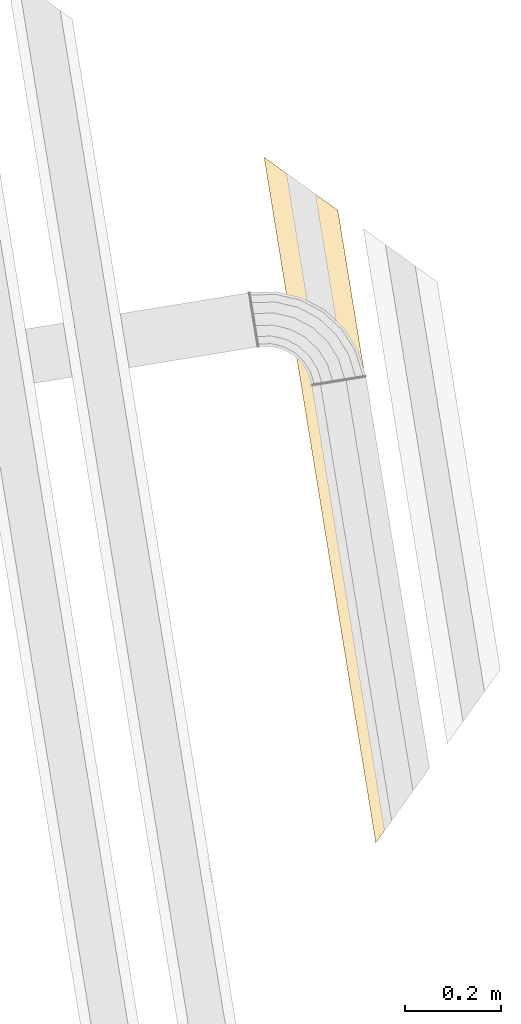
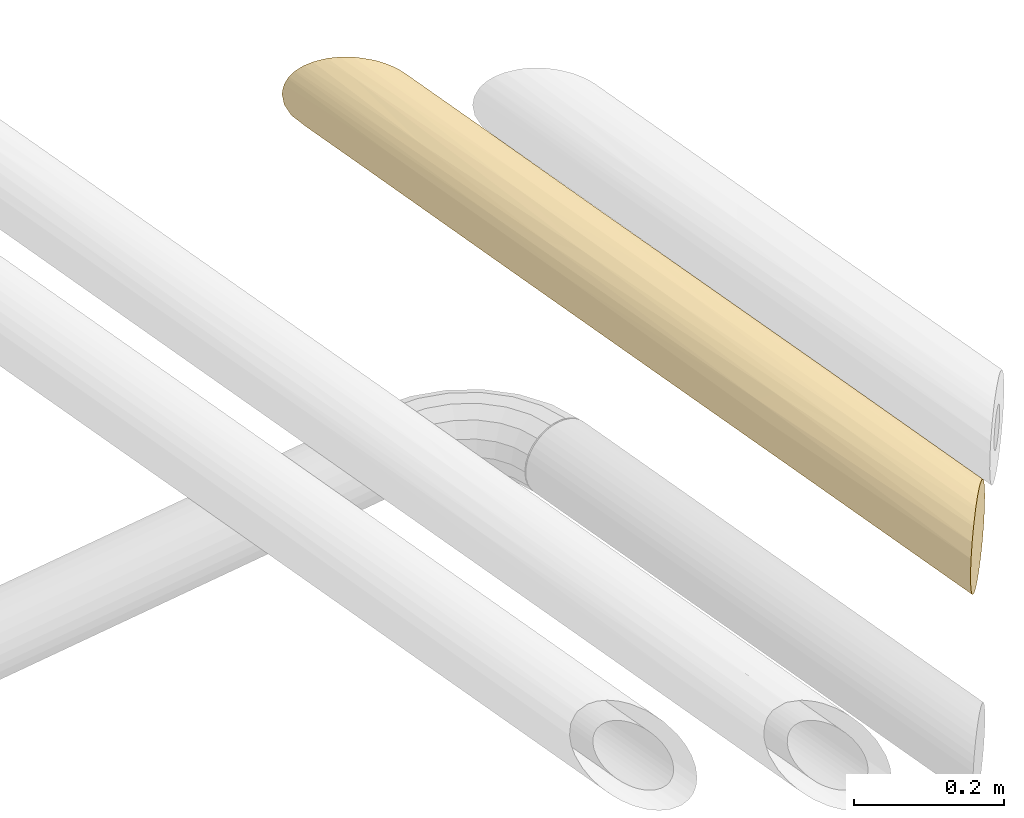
# One storey, part 9 of 46: 1 covering.
"""IFC2X3 building model written with IfcOpenShell, lengths in millimetres."""

from ifc_helpers import new_model, entity, si_unit, converted_unit, derived_unit, direction, frame, origin, origin_with_axes, place, context, subcontext, project, spatial, faceted_brep, type_object, element, save


model = new_model("IFC2X3")

# Units and contexts
model_context = context("Model", 3, precision=0.01, world=origin(), true_north=direction((6.12323399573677e-17, 1.0)))
plan_context = context("Plan", 3, precision=1e-05, world=origin_with_axes())
body_context = subcontext(model_context, "Body", "Model", "MODEL_VIEW")
ifc_project = project(units=[converted_unit("PLANEANGLEUNIT", "DEGREE", entity("IfcPositiveLengthMeasure", 0.0174532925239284), si_unit("PLANEANGLEUNIT", "RADIAN"), dimensions=[0, 0, 0, 0, 0, 0, 0]), si_unit("AREAUNIT", "SQUARE_METRE"), si_unit("LENGTHUNIT", "METRE", prefix="MILLI"), si_unit("MASSUNIT", "GRAM", prefix="KILO"), si_unit("POWERUNIT", "WATT"), si_unit("PRESSUREUNIT", "PASCAL", prefix="KILO"), si_unit("FORCEUNIT", "NEWTON", prefix="KILO"), si_unit("ELECTRICVOLTAGEUNIT", "VOLT"), si_unit("ELECTRICCURRENTUNIT", "AMPERE"), si_unit("THERMODYNAMICTEMPERATUREUNIT", "DEGREE_CELSIUS"), si_unit("TIMEUNIT", "SECOND"), si_unit("VOLUMEUNIT", "CUBIC_METRE"), derived_unit("LINEARVELOCITYUNIT", [(si_unit("LENGTHUNIT", "METRE"), 1), (si_unit("TIMEUNIT", "SECOND"), -1)]), derived_unit("VOLUMETRICFLOWRATEUNIT", [(si_unit("VOLUMEUNIT", "CUBIC_METRE"), 1), (si_unit("TIMEUNIT", "SECOND"), -1)]), derived_unit("THERMALTRANSMITTANCEUNIT", [(si_unit("POWERUNIT", "WATT"), 1), (si_unit("THERMODYNAMICTEMPERATUREUNIT", "KELVIN"), -1), (si_unit("AREAUNIT", "SQUARE_METRE"), -1)]), derived_unit("SOUNDPRESSUREUNIT", [(si_unit("PRESSUREUNIT", "PASCAL"), 1)])], contexts=[model_context, plan_context])

# Site, building, storey
site_placement = place(None, frame((-3.09682673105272e-06, 1.93776733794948e-05, 0.0), z_axis=(0.0, 0.0, 1.0), x_axis=(-0.160806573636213, 0.986985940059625, 0.0)))
site = spatial("IfcSite", under=ifc_project, at=site_placement, Name="Default", CompositionType="ELEMENT")
building_placement = place(site_placement, frame((0.0, 0.0, 0.0), z_axis=(0.0, 0.0, 1.0), x_axis=(1.0, -2.77555756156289e-17, 0.0)))
building = spatial("IfcBuilding", under=site, at=building_placement, Name="Bygning (endres i Project Information)", CompositionType="ELEMENT")
storey_placement = place(building_placement, frame((0.0, 0.0, 51360.0000000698), z_axis=(0.0, 0.0, 1.0), x_axis=(1.0, -2.77555756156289e-17, 0.0)))
storey = spatial("IfcBuildingStorey", under=building, at=storey_placement, Name="H01-Nivå D+0,36", CompositionType="ELEMENT", Elevation=51360.0000000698)

# Covering
covering_type = type_object("IfcCoveringType", Name="Pipe Insulation:GLAVA Rørskål ClimPipe Alu2, isol.kl.4, 45°C", PredefinedType="INSULATION")
covering_placement = place(storey_placement, frame((999368.404808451, -357144.194427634, 3591.40472772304), z_axis=(0.0, 0.0, 1.0), x_axis=(1.0, -2.77555756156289e-17, 0.0)))
element("IfcCovering", 1, at=covering_placement, inside=storey, type_object=covering_type, Name="Pipe Insulation:GLAVA Rørskål ClimPipe Alu2, isol.kl.4, 45°C", ObjectType="Pipe Insulation:GLAVA Rørskål ClimPipe Alu2, isol.kl.4, 45°C", PredefinedType="INSULATION", context=body_context, shape_type="Brep", body=[
    faceted_brep([(7895.38540370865, 89.6128110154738, 131.874485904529), (7880.77756732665, 104.220647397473, 125.197649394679), (8145.23940089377, 98.6395189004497, 128.481357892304), (7899.98563714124, 85.0125775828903, 133.549348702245), (8174.45436698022, 84.0394724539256, 133.79095224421), (7911.25963501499, 73.7385797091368, 134.994388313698), (7978.5527072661, 6.44550745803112, 92.6174735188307), (7974.1648694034, 10.8333453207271, 102.249827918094), (8145.23940129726, 8.70918662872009, 98.639518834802), (7981.42870986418, 3.56950485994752, 84.7238282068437), (8174.45436965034, 3.39959230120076, 84.0394724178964), (8520.78125315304, 5.46897905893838, 91.0468002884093), (8520.78177618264, 1.59527223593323, 68.5952722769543), (7983.40294248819, 1.59527223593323, 68.5952722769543), (7982.47642241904, 2.52179230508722, 76.5258837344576), (7916.4029424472, 68.5952722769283, 1.5952722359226), (7926.79848558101, 58.1997291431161, 2.80683525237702), (8201.52094340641, 68.5952722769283, 1.5952722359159), (7934.76386098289, 50.2343537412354, 4.2672301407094), (8138.71233115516, 45.9456075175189, 5.53979914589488), (8391.17935339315, 56.1615802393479, 2.75908687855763), (8656.52481003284, 68.5952722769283, 1.5952722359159), (8423.30035424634, 68.5952722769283, 1.59527223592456), (8748.89856443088, 54.8621131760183, 3.01783449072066), (9111.52975018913, 68.5952722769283, 1.5952722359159), (8994.91748218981, 68.5952722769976, 1.5952722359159), (9186.1887505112, 48.9941311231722, 4.52659606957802), (9210.27839741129, 50.2355955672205, 4.3409367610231), (9228.63807412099, 68.5952722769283, 1.59527223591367), (9209.0092156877, 48.9664138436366, 4.53519303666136), (9198.22742323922, 38.1846213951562, 8.98923213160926), (9162.49704755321, 37.2509344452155, 9.37929055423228), (8886.49419734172, 43.1111894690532, 6.63107673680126), (9015.56861485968, 27.725100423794, 15.5045098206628), (9188.28319877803, 28.2403969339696, 15.1180155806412), (9196.38016819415, 36.3373663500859, 9.95066667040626), (9181.35869767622, 21.3158958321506, 22.1649338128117), (9174.5818305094, 14.5390286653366, 29.0291965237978), (8860.66180586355, 15.4420997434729, 27.8063000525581), (8575.8778203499, 24.9266138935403, 17.7814131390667), (8524.78002356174, 15.6299503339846, 27.5626672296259), (8201.52086451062, 17.9407028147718, 24.7419417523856), (8165.06612207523, 9.97217181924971, 36.155603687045), (8532.33499313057, 8.54218858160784, 38.8862308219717), (8139.49174160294, 4.52290269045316, 49.0062074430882), (7973.73792963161, 11.2602850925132, 33.9978407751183), (7976.40720468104, 8.59101004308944, 40.2248452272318), (7980.25908767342, 4.73912705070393, 48.3435009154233), (7949.62842535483, 35.369789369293, 10.562159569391), (7958.41907472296, 26.5791400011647, 16.6276047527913), (8173.93308689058, 31.2839053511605, 12.945816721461), (7943.07115071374, 41.9270640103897, 7.26361282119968), (8548.39290127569, 43.5142215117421, 6.46684965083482), (7963.56580901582, 21.4324057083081, 21.1659535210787), (7970.61940080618, 14.3788139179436, 29.5034720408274), (7982.08766033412, 2.91055439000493, 59.7945893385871), (8711.10839673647, 2.8694589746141, 55.5907549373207), (8425.30122004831, 1.59527223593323, 68.5952722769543), (8996.91672484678, 6.64355497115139, 43.0808699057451), (9162.91226082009, 2.86945897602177, 55.5907549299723), (9163.22444346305, 3.18164161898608, 54.5559723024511), (9166.30149018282, 6.25868833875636, 44.0752218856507), (9241.37514135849, 81.3323395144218, 134.312792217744), (9234.16654978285, 74.1237479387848, 135.129427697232), (9118.8145877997, 79.8068774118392, 134.650551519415), (9228.63807412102, 68.5952722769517, 135.59527231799), (8891.25067182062, 68.5952722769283, 135.595272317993), (8868.25487491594, 89.285630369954, 132.32053483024), (8520.78200579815, 68.5952722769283, 135.595272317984), (8520.78125170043, 91.0468003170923, 131.7215654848), (8696.01469700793, 105.883351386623, 124.260334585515), (9201.76416101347, 93.3368671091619, 130.859656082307), (9029.98882209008, 111.63897046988, 119.939600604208), (9266.42563476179, 106.382832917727, 123.831805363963), (9259.01218149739, 98.9693796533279, 127.943953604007), (9252.56896344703, 92.5261616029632, 131.130972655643), (9282.74499848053, 122.70219663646, 108.059468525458), (9277.7953676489, 117.752565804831, 113.981221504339), (9094.78116796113, 120.932443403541, 110.426128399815), (9284.11124099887, 124.068439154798, 106.099139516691), (8869.19650820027, 126.75941535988, 101.850835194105), (9288.8403239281, 128.797522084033, 97.911287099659), (9290.19672950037, 130.153927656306, 94.8742519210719), (9074.28649797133, 131.734493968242, 91.0104164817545), (9293.50078904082, 133.457987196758, 84.8508932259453), (9239.31769152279, 79.2748896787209, 2.64677842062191), (9243.05367098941, 83.0108691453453, 3.21470153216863), (9166.17443066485, 81.6621272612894, 2.88182383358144), (9250.94423651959, 90.9014346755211, 5.51521535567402), (8994.91672552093, 94.2271558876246, 6.69206922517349), (9259.15386527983, 99.1110634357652, 9.12284276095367), (9263.71200713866, 103.669205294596, 11.5405795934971), (8908.83716908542, 105.917530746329, 12.9531207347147), (9269.25256031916, 109.209758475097, 15.6456055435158), (9177.15946794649, 112.732033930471, 18.1874725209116), (8845.3544433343, 119.157166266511, 24.6351212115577), (8581.99803411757, 109.425300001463, 15.4736303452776), (8544.4779891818, 118.219798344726, 23.5796481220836), (8241.15066046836, 115.111048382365, 20.3740883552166), (8544.00251500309, 125.482049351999, 33.1990210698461), (8051.23438993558, 123.993063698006, 30.9112609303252), (8339.9166843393, 130.913203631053, 43.9888617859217), (8605.68793273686, 133.45214905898, 51.7849915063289), (8297.80019212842, 134.540001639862, 56.7507514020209), (8520.78125000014, 135.595272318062, 68.5952722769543), (8425.30203715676, 135.595272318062, 68.5952722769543), (8150.31250000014, 135.595272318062, 68.5952722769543), (7853.68325622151, 135.595272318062, 68.5952722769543), (8270.0469787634, 133.031759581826, 86.9511734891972), (8711.10839602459, 131.81941625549, 90.7697536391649), (8310.15399650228, 125.87329169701, 103.354853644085), (8760.74820723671, 119.235621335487, 112.465023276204), (8286.65075847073, 112.055080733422, 119.587870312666), (7864.62567451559, 120.711520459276, 110.70105193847), (7877.54778290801, 107.450431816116, 123.104531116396), (7864.33579545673, 120.662419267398, 110.746332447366), (7860.52865561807, 124.469559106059, 104.303644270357), (7854.25589049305, 130.742324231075, 93.627158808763), (7864.28144763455, 120.716767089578, 110.693507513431), (7854.24668740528, 130.751527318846, 93.6059285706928), (7850.8727928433, 134.125421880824, 82.3718335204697), (7849.45597678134, 135.542237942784, 69.1478956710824), (7849.40294240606, 135.595272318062, 68.5952722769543), (7852.50420950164, 132.49400522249, 49.3364249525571), (7854.34818519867, 130.650029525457, 43.4057869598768), (8004.30315564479, 131.204549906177, 44.7399089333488), (7850.39010581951, 134.60810890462, 57.1487537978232), (7965.0781343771, 134.673108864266, 57.5173881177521), (7858.64189854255, 126.356316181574, 35.130519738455), (7861.98094909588, 123.01726562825, 29.5856215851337), (7868.97484092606, 116.023373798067, 21.4252372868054), (7870.9096762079, 114.088538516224, 19.5823718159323), (7882.58765544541, 102.41055927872, 10.8767205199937), (8015.18923372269, 105.242994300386, 12.5065525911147), (7869.73818760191, 115.260027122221, 20.5182655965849), (8304.06019692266, 100.275818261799, 9.55847856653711), (8061.59163775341, 92.5370003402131, 6.01896955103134), (8371.65304559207, 85.9693153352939, 3.88713806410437), (8604.61450195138, 96.0246089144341, 7.46727953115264), (8709.1083976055, 81.6621272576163, 2.88182383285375), (7994.58757865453, 80.2606100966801, 2.61861050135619), (8137.4912699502, 68.5952722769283, 1.5952722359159), (7896.21299786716, 88.7852168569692, 4.94812337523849), (7904.52109977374, 80.4771149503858, 2.6586394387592), (7889.47857670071, 95.5196380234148, 7.33479518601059), (7911.51856083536, 73.4796538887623, 2.02375314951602), (7849.75096569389, 135.247249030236, 64.414493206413), (7864.28909408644, 120.709120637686, 110.703757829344), (8891.25000000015, 135.595272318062, 68.5952722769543), (8996.91345670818, 135.595272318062, 68.5952722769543), (9295.12590481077, 135.083102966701, 64.6971905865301), (9295.63807416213, 135.595272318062, 68.5952722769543), (9118.81459251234, 133.321239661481, 51.2877839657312), (9294.57438683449, 134.531584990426, 78.9601806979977), (8938.34649381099, 127.945399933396, 37.5056863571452), (9286.88467705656, 126.841875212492, 35.4978818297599), (9288.39526034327, 128.352458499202, 39.2657816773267), (9285.78976871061, 125.746966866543, 33.8829572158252), (9293.52556032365, 133.482758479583, 51.9242787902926), (9281.34612901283, 121.303327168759, 28.6342827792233), (9273.55807486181, 113.515273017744, 18.9409489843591), (9274.71962222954, 114.676820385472, 117.156627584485), (8425.2969917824, 68.5952722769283, 135.595272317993), (8996.91415981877, 68.5952722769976, 135.595272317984), (8711.10839636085, 46.4207909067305, 131.819416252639), (9074.28649935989, 46.1801281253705, 131.734493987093), (9220.84067203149, 60.7978701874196, 134.79507250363), (9210.03728021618, 49.9944783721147, 132.801785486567), (9203.90336303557, 43.8605611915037, 130.785636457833), (9198.47371219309, 38.4309103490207, 128.358633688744), (9192.07654843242, 32.0337465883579, 124.665340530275), (8869.19650966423, 35.3397093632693, 126.759415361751), (9187.98069686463, 27.9378950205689, 121.809953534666), (9094.78116957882, 26.7644161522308, 120.932443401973), (9185.05365413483, 25.0108522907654, 119.36395608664), (9178.98810127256, 18.9452994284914, 113.488502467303), (9029.98882438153, 17.2509439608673, 111.638970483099), (8760.74820969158, 24.7255212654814, 119.235621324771), (8696.01470124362, 12.9302099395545, 105.883351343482), (9168.48904694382, 8.44624509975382, 96.8822223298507), (9166.82953818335, 6.78673633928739, 94.203515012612), (9166.21798655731, 6.17518471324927, 92.9050771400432), (8868.25487605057, 4.87000971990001, 89.2856303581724), (9164.67884674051, 4.63604489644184, 87.2878434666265), (9118.81458902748, 2.53999303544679, 79.8068774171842), (8891.25000000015, 1.59527223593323, 68.5952722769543), (9162.40184474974, 2.35904290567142, 77.6594266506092), (9161.63807408, 1.59527223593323, 68.5952722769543), (9162.70374710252, 2.66094525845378, 80.3531481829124), (9174.90809581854, 14.8652939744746, 108.417324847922), (8286.65076157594, 17.6026741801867, 112.05508066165), (8310.15399701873, 33.8356908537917, 125.873291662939), (7960.52819513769, 24.4700195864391, 118.744399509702), (7956.98582017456, 28.0123945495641, 121.781580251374), (7970.11647818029, 14.881736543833, 108.49233655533), (7943.33556037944, 41.6626543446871, 129.790945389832), (7940.04049539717, 44.9577193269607, 131.222017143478), (7931.0554730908, 53.942741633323, 133.916218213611), (8270.04697928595, 50.2393709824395, 133.03175955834), (7919.29567315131, 65.7025415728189, 135.191284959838), (7916.40294244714, 68.595272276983, 135.595272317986), (9170.07644885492, 10.033647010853, 36.9360933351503)], [[[0, 1, 2]], [[3, 0, 2, 4]], [[5, 3, 4]], [[6, 7, 8]], [[9, 6, 8, 10]], [[11, 10, 8]], [[11, 12, 10]], [[13, 14, 10, 12]], [[15, 16, 17]], [[16, 18, 19, 17]], [[17, 19, 20]], [[21, 22, 17, 20]], [[21, 20, 23]], [[24, 25, 21, 23]], [[26, 24, 23]], [[27, 28, 24, 26]], [[29, 27, 26]], [[30, 29, 26, 31]], [[26, 32, 31]], [[31, 32, 33]], [[34, 35, 31, 33]], [[36, 34, 33]], [[37, 36, 33, 38]], [[33, 39, 38]], [[40, 38, 39]], [[41, 40, 39]], [[40, 41, 42]], [[43, 40, 42]], [[44, 43, 42]], [[45, 46, 44, 42]], [[46, 47, 44]], [[48, 49, 50]], [[51, 48, 50, 19]], [[52, 19, 50]], [[39, 52, 50]], [[52, 39, 32]], [[52, 32, 23]], [[49, 53, 41, 50]], [[53, 54, 41]], [[47, 55, 44]], [[44, 56, 43]], [[56, 44, 57]], [[58, 43, 56]], [[59, 60, 58, 56]], [[60, 61, 58]], [[62, 63, 64]], [[63, 65, 66, 64]], [[67, 64, 66]], [[68, 67, 66]], [[69, 67, 68]], [[69, 68, 4]], [[69, 70, 67]], [[71, 67, 70]], [[70, 72, 71]], [[73, 74, 71, 72]], [[74, 75, 71]], [[76, 77, 78]], [[79, 76, 78, 80]], [[81, 79, 80]], [[82, 81, 80, 83]], [[84, 82, 83]], [[85, 86, 87]], [[86, 88, 89, 87]], [[88, 90, 89]], [[90, 91, 92, 89]], [[91, 93, 94, 92]], [[94, 95, 92]], [[96, 92, 95]], [[96, 95, 97]], [[97, 98, 96]], [[97, 99, 98]], [[99, 100, 98]], [[99, 101, 100]], [[101, 99, 102]], [[101, 102, 103]], [[102, 104, 103]], [[104, 105, 106, 103]], [[107, 106, 105, 108]], [[108, 105, 109]], [[109, 110, 108]], [[109, 80, 110]], [[80, 111, 110]], [[112, 110, 111]], [[113, 110, 112]], [[114, 115, 113, 112]], [[116, 117, 110, 113]], [[118, 116, 113]], [[119, 120, 108]], [[121, 122, 107]], [[123, 124, 125]], [[126, 123, 125, 127]], [[127, 125, 103]], [[124, 128, 100, 125]], [[128, 129, 100]], [[129, 130, 100]], [[131, 132, 133]], [[134, 131, 133, 98]], [[98, 133, 135]], [[136, 135, 133]], [[135, 136, 137]], [[138, 135, 137]], [[138, 96, 135]], [[139, 138, 137]], [[137, 22, 139]], [[138, 139, 89]], [[136, 140, 137]], [[140, 141, 137]], [[142, 143, 140, 136]], [[144, 142, 136]], [[143, 145, 140]], [[132, 144, 136, 133]], [[146, 126, 127]], [[147, 118, 113]], [[111, 70, 112]], [[70, 2, 112]], [[117, 119, 108, 110]], [[120, 121, 107, 108]], [[122, 146, 127, 106]], [[105, 104, 148, 149, 109]], [[83, 109, 149]], [[150, 151, 148, 152]], [[151, 153, 149]], [[102, 152, 148]], [[152, 102, 154]], [[155, 156, 152, 154]], [[157, 155, 154, 95]], [[154, 99, 95]], [[156, 158, 152]], [[158, 150, 152]], [[106, 127, 103]], [[102, 148, 104]], [[125, 101, 103]], [[99, 154, 102]], [[101, 125, 100]], [[130, 134, 98, 100]], [[98, 135, 96]], [[99, 97, 95]], [[138, 92, 96]], [[159, 157, 95, 94]], [[160, 159, 94]], [[93, 160, 94]], [[89, 92, 138]], [[89, 139, 87]], [[153, 84, 83, 149]], [[80, 109, 83]], [[78, 111, 80]], [[78, 72, 111]], [[77, 161, 72, 78]], [[161, 73, 72]], [[111, 72, 70]], [[69, 2, 70]], [[71, 64, 67]], [[162, 68, 66, 163, 164]], [[165, 164, 163]], [[166, 167, 165, 163]], [[167, 168, 165]], [[169, 170, 171]], [[170, 172, 173, 171]], [[172, 174, 173]], [[174, 175, 176, 173]], [[173, 176, 177]], [[177, 176, 178]], [[179, 180, 178, 176]], [[180, 181, 182, 178]], [[181, 183, 184, 182]], [[182, 184, 185]], [[12, 182, 185]], [[186, 187, 185, 184]], [[188, 186, 184]], [[183, 188, 184]], [[11, 178, 182]], [[189, 179, 176]], [[177, 178, 190]], [[178, 8, 190]], [[190, 191, 177]], [[192, 193, 191, 190]], [[194, 192, 190]], [[193, 195, 191]], [[196, 197, 198]], [[197, 199, 198]], [[199, 200, 162, 198]], [[195, 196, 198, 191]], [[164, 191, 198]], [[164, 171, 191]], [[171, 177, 191]], [[175, 189, 176]], [[173, 177, 171]], [[168, 169, 171, 165]], [[171, 164, 165]], [[198, 162, 164]], [[75, 62, 64, 71]], [[65, 166, 163]], [[61, 201, 58]], [[58, 38, 43]], [[54, 45, 42, 41]], [[41, 39, 50]], [[43, 38, 40]], [[201, 37, 38, 58]], [[33, 32, 39]], [[35, 30, 31]], [[26, 23, 32]], [[20, 52, 23]], [[28, 85, 87, 139, 22]], [[20, 19, 52]], [[18, 51, 19]], [[145, 15, 141, 140]], [[141, 17, 22, 137]], [[55, 13, 57, 44]], [[187, 59, 56, 57]], [[11, 182, 12]], [[11, 8, 178]], [[14, 9, 10]], [[7, 194, 190, 8]], [[200, 5, 4, 68]], [[69, 4, 2]], [[1, 114, 112, 2]], [[115, 147, 113]], [[29, 30, 35, 34, 36, 37, 201, 61, 60, 59, 187, 186, 188, 183, 181, 180, 179, 189, 175, 174, 172, 170, 169, 168, 167, 166, 65, 63, 62, 75, 74, 73, 161, 77, 76, 79, 81, 82, 84, 153, 151, 150, 158, 156, 155, 157, 159, 160, 93, 91, 90, 88, 86, 85, 28, 27]], [[3, 5, 200, 199, 197, 196, 195, 193, 192, 194, 7, 6, 9, 14, 13, 55, 47, 46, 45, 54, 53, 49, 48, 51, 18, 16, 15, 145, 143, 142, 144, 132, 131, 134, 130, 129, 128, 124, 123, 126, 146, 122, 121, 120, 117, 116, 118, 115, 114, 1, 0]]], orient=[[False], [False], [False], [False], [False], [False], [False], [False], [False], [False], [False], [False], [False], [False], [False], [False], [False], [False], [False], [False], [False], [False], [False], [False], [False], [False], [False], [False], [False], [False], [False], [False], [False], [False], [False], [False], [False], [False], [False], [False], [False], [False], [False], [False], [False], [False], [False], [False], [False], [False], [False], [False], [False], [False], [False], [False], [False], [False], [False], [False], [False], [False], [False], [False], [False], [False], [False], [False], [False], [False], [False], [False], [False], [False], [False], [False], [False], [False], [False], [False], [False], [False], [False], [False], [False], [False], [False], [False], [False], [False], [False], [False], [False], [False], [False], [False], [False], [False], [False], [False], [False], [False], [False], [False], [False], [False], [False], [False], [False], [False], [False], [False], [False], [False], [False], [False], [False], [False], [False], [False], [False], [False], [False], [False], [False], [False], [False], [False], [False], [False], [False], [False], [False], [False], [False], [False], [False], [False], [False], [False], [False], [False], [False], [False], [False], [False], [False], [False], [False], [False], [False], [False], [False], [False], [False], [False], [False], [False], [False], [False], [False], [False], [False], [False], [False], [False], [False], [False], [False], [False], [False], [False], [False], [False], [False], [False], [False], [False], [False], [False], [False], [False], [False], [False], [False], [False], [False], [False], [False], [False], [False], [False], [False], [False], [False], [False], [False], [False], [False], [False], [False], [False], [False], [False], [False], [False], [False], [False], [False], [False], [False], [False], [False], [False], [False], [False], [False], [False], [False]]),
])

save(model, "model.ifc")
